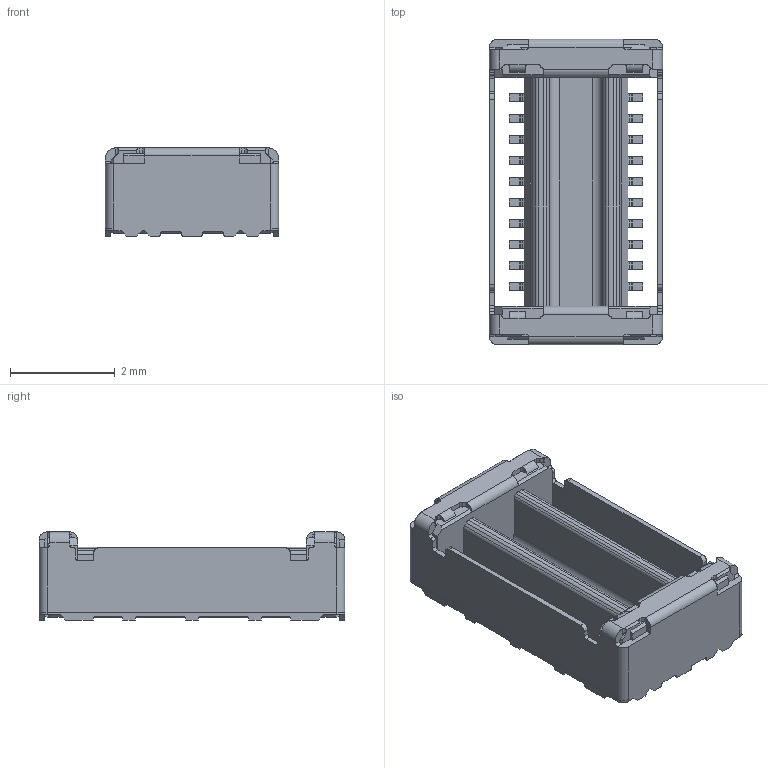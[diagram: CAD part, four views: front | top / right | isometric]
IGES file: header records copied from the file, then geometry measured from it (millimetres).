
Start section: SolidWorks IGES file using analytic representation for surfaces
Bounding box: 3.3 x 5.82 x 1.68 mm (x, y, z)
Surface area: 95.5 mm2 (no closed solid volume)
Topology: 0 solids, 0 shells, 602 faces, 3780 edges, 3780 vertices
Faces by surface type: bspline 404, revolution 198
